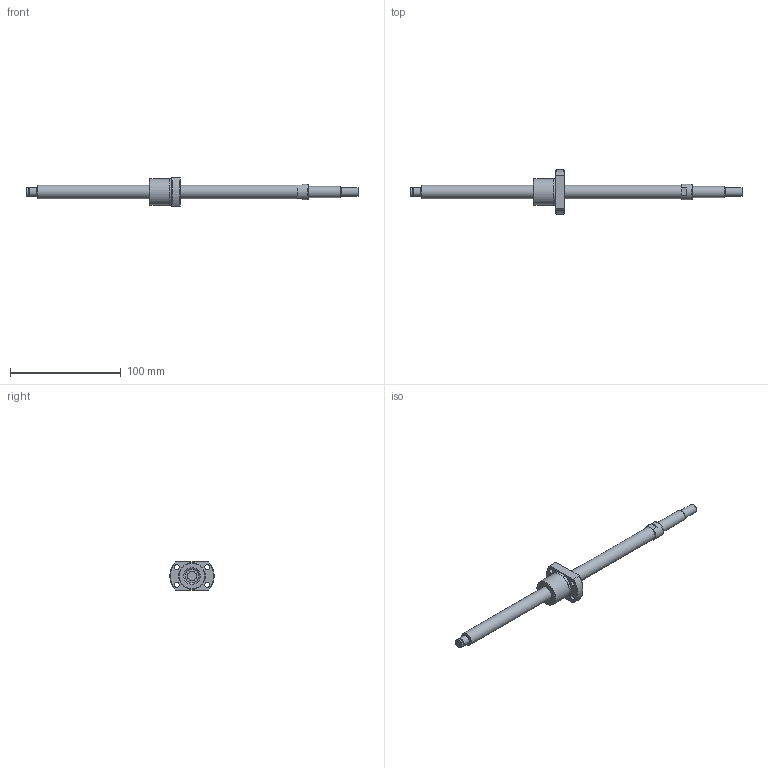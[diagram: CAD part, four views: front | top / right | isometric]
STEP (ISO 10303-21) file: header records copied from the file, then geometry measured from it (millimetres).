
FILE_DESCRIPTION(/* description */ ('STEP AP214'),/* implementation_level */ '2;1');
FILE_NAME(/* name */ 'NSGF1202Z-231R300C3-0-T-S-T-B-(101.5-S)',/* time_stamp */ '2026-08-24T20:17:11+02:00',/* author */ ('License CC BY-ND 4.0'),/* organization */ ('CADENAS'),/* preprocessor_version */ 'ST-DEVELOPER v20',/* originating_system */ 'PARTsolutions',/* authorisation */ ' ');
FILE_SCHEMA (('AUTOMOTIVE_DESIGN {1 0 10303 214 3 1 1}'));
Length unit declared in the file: millimetre
Products named in the file (3): NSGF1202Z-231R300C3-0-T-S-T-B-(101.5-S); NSG1202Z-231R30028_(T-S_T-B_2)-2; NSGF1202Z-1
Assembly tree (2 placements, depth 2):
  NSGF1202Z-231R300C3-0-T-S-T-B-(101.5-S)
    NSG1202Z-231R30028_(T-S_T-B_2)-2
    NSGF1202Z-1
Bounding box: 300 x 39.88 x 26 mm (x, y, z)
Volume: 43955.4 mm3; surface area: 16708.7 mm2
Topology: 2 solids, 2 shells, 47 faces, 99 edges, 64 vertices
Faces by surface type: plane 20, cylinder 17, cone 8, torus 2
Full cylindrical faces by diameter (mm): 4.5 x4, 7.6 x1, 8 x3, 10 x1, 12 x2, 14 x1, 17 x1, 23.7 x1, 24 x1
Entity records: 1235 total; most frequent: DIRECTION 214, CARTESIAN_POINT 208, ORIENTED_EDGE 148, AXIS2_PLACEMENT_3D 98, EDGE_LOOP 86, FACE_BOUND 86, EDGE_CURVE 74, VERTEX_POINT 60
